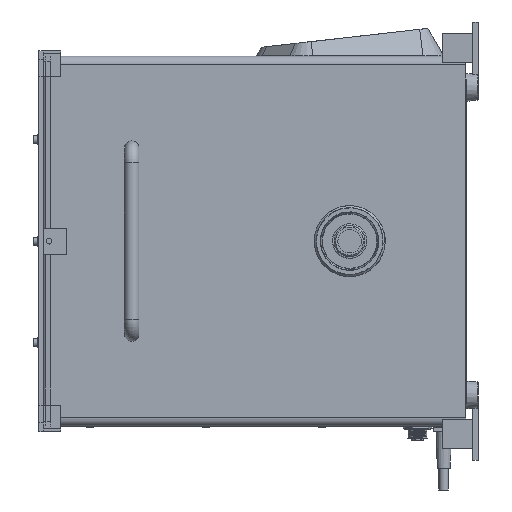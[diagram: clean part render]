
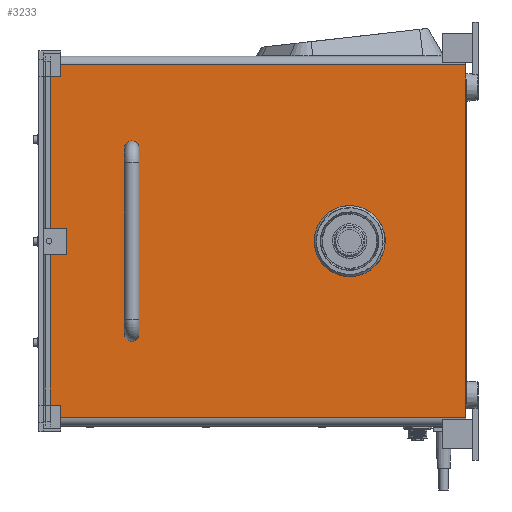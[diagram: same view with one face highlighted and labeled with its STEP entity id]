
A CAD part, left-side view. The second image highlights one B-rep face of the part: STEP entity #3233.
In plain terms, the highlighted planar face has unit normal (-1, 0, 0).
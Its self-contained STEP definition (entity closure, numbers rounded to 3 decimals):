
#736 = CYLINDRICAL_SURFACE('',#737,0.85);
#737 = AXIS2_PLACEMENT_3D('',#738,#739,#740);
#738 = CARTESIAN_POINT('',(-156.65,-289.,-111.7));
#739 = DIRECTION('',(0.,0.,-1.));
#740 = DIRECTION('',(1.,0.,0.));
#752 = VERTEX_POINT('',#753);
#753 = CARTESIAN_POINT('',(-157.5,-289.,-121.7));
#774 = PLANE('',#775);
#775 = AXIS2_PLACEMENT_3D('',#776,#777,#778);
#776 = CARTESIAN_POINT('',(-151.7,-289.,-126.7));
#777 = DIRECTION('',(0.,-1.,0.));
#778 = DIRECTION('',(0.,-0.,-1.));
#803 = CYLINDRICAL_SURFACE('',#804,5.8);
#804 = AXIS2_PLACEMENT_3D('',#805,#806,#807);
#805 = CARTESIAN_POINT('',(-151.7,-289.,-121.7));
#806 = DIRECTION('',(0.,1.,0.));
#807 = DIRECTION('',(0.,-0.,1.));
#902 = VERTEX_POINT('',#903);
#903 = CARTESIAN_POINT('',(-157.5,-289.,-111.7));
#929 = EDGE_CURVE('',#902,#752,#930,.T.);
#930 = SURFACE_CURVE('',#931,(#935,#942),.PCURVE_S1.);
#931 = LINE('',#932,#933);
#932 = CARTESIAN_POINT('',(-157.5,-289.,-127.5));
#933 = VECTOR('',#934,1.);
#934 = DIRECTION('',(0.,0.,-1.));
#935 = PCURVE('',#774,#936);
#936 = DEFINITIONAL_REPRESENTATION('',(#937),#941);
#937 = LINE('',#938,#939);
#938 = CARTESIAN_POINT('',(0.8,-5.8));
#939 = VECTOR('',#940,1.);
#940 = DIRECTION('',(1.,0.));
#941 = ( GEOMETRIC_REPRESENTATION_CONTEXT(2) 
PARAMETRIC_REPRESENTATION_CONTEXT() REPRESENTATION_CONTEXT('2D SPACE',''
  ) );
#942 = PCURVE('',#943,#948);
#943 = PLANE('',#944);
#944 = AXIS2_PLACEMENT_3D('',#945,#946,#947);
#945 = CARTESIAN_POINT('',(-157.5,-289.,-127.5));
#946 = DIRECTION('',(1.,0.,0.));
#947 = DIRECTION('',(0.,0.,-1.));
#948 = DEFINITIONAL_REPRESENTATION('',(#949),#953);
#949 = LINE('',#950,#951);
#950 = CARTESIAN_POINT('',(0.,0.));
#951 = VECTOR('',#952,1.);
#952 = DIRECTION('',(1.,0.));
#953 = ( GEOMETRIC_REPRESENTATION_CONTEXT(2) 
PARAMETRIC_REPRESENTATION_CONTEXT() REPRESENTATION_CONTEXT('2D SPACE',''
  ) );
#1024 = EDGE_CURVE('',#902,#1025,#1027,.T.);
#1025 = VERTEX_POINT('',#1026);
#1026 = CARTESIAN_POINT('',(-157.5,-289.,111.7));
#1027 = SURFACE_CURVE('',#1028,(#1032,#1039),.PCURVE_S1.);
#1028 = LINE('',#1029,#1030);
#1029 = CARTESIAN_POINT('',(-157.5,-289.,-111.7));
#1030 = VECTOR('',#1031,1.);
#1031 = DIRECTION('',(0.,-0.,1.));
#1032 = PCURVE('',#736,#1033);
#1033 = DEFINITIONAL_REPRESENTATION('',(#1034),#1038);
#1034 = LINE('',#1035,#1036);
#1035 = CARTESIAN_POINT('',(3.142,0.));
#1036 = VECTOR('',#1037,1.);
#1037 = DIRECTION('',(0.,-1.));
#1038 = ( GEOMETRIC_REPRESENTATION_CONTEXT(2) 
PARAMETRIC_REPRESENTATION_CONTEXT() REPRESENTATION_CONTEXT('2D SPACE',''
  ) );
#1039 = PCURVE('',#943,#1040);
#1040 = DEFINITIONAL_REPRESENTATION('',(#1041),#1045);
#1041 = LINE('',#1042,#1043);
#1042 = CARTESIAN_POINT('',(-15.8,0.));
#1043 = VECTOR('',#1044,1.);
#1044 = DIRECTION('',(-1.,0.));
#1045 = ( GEOMETRIC_REPRESENTATION_CONTEXT(2) 
PARAMETRIC_REPRESENTATION_CONTEXT() REPRESENTATION_CONTEXT('2D SPACE',''
  ) );
#1126 = PLANE('',#1127);
#1127 = AXIS2_PLACEMENT_3D('',#1128,#1129,#1130);
#1128 = CARTESIAN_POINT('',(-151.7,-289.,-126.7));
#1129 = DIRECTION('',(0.,-1.,0.));
#1130 = DIRECTION('',(0.,-0.,-1.));
#1167 = VERTEX_POINT('',#1168);
#1168 = CARTESIAN_POINT('',(-157.5,-289.,121.7));
#1194 = EDGE_CURVE('',#1167,#1025,#1195,.T.);
#1195 = SURFACE_CURVE('',#1196,(#1200,#1207),.PCURVE_S1.);
#1196 = LINE('',#1197,#1198);
#1197 = CARTESIAN_POINT('',(-157.5,-289.,-127.5));
#1198 = VECTOR('',#1199,1.);
#1199 = DIRECTION('',(0.,0.,-1.));
#1200 = PCURVE('',#1126,#1201);
#1201 = DEFINITIONAL_REPRESENTATION('',(#1202),#1206);
#1202 = LINE('',#1203,#1204);
#1203 = CARTESIAN_POINT('',(0.8,-5.8));
#1204 = VECTOR('',#1205,1.);
#1205 = DIRECTION('',(1.,0.));
#1206 = ( GEOMETRIC_REPRESENTATION_CONTEXT(2) 
PARAMETRIC_REPRESENTATION_CONTEXT() REPRESENTATION_CONTEXT('2D SPACE',''
  ) );
#1207 = PCURVE('',#943,#1208);
#1208 = DEFINITIONAL_REPRESENTATION('',(#1209),#1213);
#1209 = LINE('',#1210,#1211);
#1210 = CARTESIAN_POINT('',(0.,0.));
#1211 = VECTOR('',#1212,1.);
#1212 = DIRECTION('',(1.,0.));
#1213 = ( GEOMETRIC_REPRESENTATION_CONTEXT(2) 
PARAMETRIC_REPRESENTATION_CONTEXT() REPRESENTATION_CONTEXT('2D SPACE',''
  ) );
#1263 = CYLINDRICAL_SURFACE('',#1264,5.8);
#1264 = AXIS2_PLACEMENT_3D('',#1265,#1266,#1267);
#1265 = CARTESIAN_POINT('',(-151.7,-289.,121.7));
#1266 = DIRECTION('',(0.,1.,0.));
#1267 = DIRECTION('',(0.,-0.,1.));
#3195 = VERTEX_POINT('',#3196);
#3196 = CARTESIAN_POINT('',(-157.5,0.,-121.7));
#3213 = EDGE_CURVE('',#752,#3195,#3214,.T.);
#3214 = SURFACE_CURVE('',#3215,(#3219,#3226),.PCURVE_S1.);
#3215 = LINE('',#3216,#3217);
#3216 = CARTESIAN_POINT('',(-157.5,-289.,-121.7));
#3217 = VECTOR('',#3218,1.);
#3218 = DIRECTION('',(0.,1.,0.));
#3219 = PCURVE('',#803,#3220);
#3220 = DEFINITIONAL_REPRESENTATION('',(#3221),#3225);
#3221 = LINE('',#3222,#3223);
#3222 = CARTESIAN_POINT('',(4.712,0.));
#3223 = VECTOR('',#3224,1.);
#3224 = DIRECTION('',(0.,1.));
#3225 = ( GEOMETRIC_REPRESENTATION_CONTEXT(2) 
PARAMETRIC_REPRESENTATION_CONTEXT() REPRESENTATION_CONTEXT('2D SPACE',''
  ) );
#3226 = PCURVE('',#943,#3227);
#3227 = DEFINITIONAL_REPRESENTATION('',(#3228),#3232);
#3228 = LINE('',#3229,#3230);
#3229 = CARTESIAN_POINT('',(-5.8,0.));
#3230 = VECTOR('',#3231,1.);
#3231 = DIRECTION('',(0.,1.));
#3232 = ( GEOMETRIC_REPRESENTATION_CONTEXT(2) 
PARAMETRIC_REPRESENTATION_CONTEXT() REPRESENTATION_CONTEXT('2D SPACE',''
  ) );
#3233 = ADVANCED_FACE('',(#3234,#3253,#3272,#3291),#943,.F.);
#3234 = FACE_BOUND('',#3235,.T.);
#3235 = EDGE_LOOP('',(#3236));
#3236 = ORIENTED_EDGE('',*,*,#3237,.T.);
#3237 = EDGE_CURVE('',#3238,#3238,#3240,.T.);
#3238 = VERTEX_POINT('',#3239);
#3239 = CARTESIAN_POINT('',(-157.5,-209.15,-20.25));
#3240 = SURFACE_CURVE('',#3241,(#3246),.PCURVE_S1.);
#3241 = CIRCLE('',#3242,20.25);
#3242 = AXIS2_PLACEMENT_3D('',#3243,#3244,#3245);
#3243 = CARTESIAN_POINT('',(-157.5,-209.15,0.));
#3244 = DIRECTION('',(1.,0.,0.));
#3245 = DIRECTION('',(0.,-0.,-1.));
#3246 = PCURVE('',#943,#3247);
#3247 = DEFINITIONAL_REPRESENTATION('',(#3248),#3252);
#3248 = CIRCLE('',#3249,20.25);
#3249 = AXIS2_PLACEMENT_2D('',#3250,#3251);
#3250 = CARTESIAN_POINT('',(-127.5,79.85));
#3251 = DIRECTION('',(1.,-0.));
#3252 = ( GEOMETRIC_REPRESENTATION_CONTEXT(2) 
PARAMETRIC_REPRESENTATION_CONTEXT() REPRESENTATION_CONTEXT('2D SPACE',''
  ) );
#3253 = FACE_BOUND('',#3254,.T.);
#3254 = EDGE_LOOP('',(#3255));
#3255 = ORIENTED_EDGE('',*,*,#3256,.T.);
#3256 = EDGE_CURVE('',#3257,#3257,#3259,.T.);
#3257 = VERTEX_POINT('',#3258);
#3258 = CARTESIAN_POINT('',(-157.5,-59.,61.9));
#3259 = SURFACE_CURVE('',#3260,(#3265),.PCURVE_S1.);
#3260 = CIRCLE('',#3261,2.1);
#3261 = AXIS2_PLACEMENT_3D('',#3262,#3263,#3264);
#3262 = CARTESIAN_POINT('',(-157.5,-59.,64.));
#3263 = DIRECTION('',(1.,-0.,0.));
#3264 = DIRECTION('',(0.,0.,-1.));
#3265 = PCURVE('',#943,#3266);
#3266 = DEFINITIONAL_REPRESENTATION('',(#3267),#3271);
#3267 = CIRCLE('',#3268,2.1);
#3268 = AXIS2_PLACEMENT_2D('',#3269,#3270);
#3269 = CARTESIAN_POINT('',(-191.5,230.));
#3270 = DIRECTION('',(1.,0.));
#3271 = ( GEOMETRIC_REPRESENTATION_CONTEXT(2) 
PARAMETRIC_REPRESENTATION_CONTEXT() REPRESENTATION_CONTEXT('2D SPACE',''
  ) );
#3272 = FACE_BOUND('',#3273,.T.);
#3273 = EDGE_LOOP('',(#3274));
#3274 = ORIENTED_EDGE('',*,*,#3275,.T.);
#3275 = EDGE_CURVE('',#3276,#3276,#3278,.T.);
#3276 = VERTEX_POINT('',#3277);
#3277 = CARTESIAN_POINT('',(-157.5,-59.,-66.1));
#3278 = SURFACE_CURVE('',#3279,(#3284),.PCURVE_S1.);
#3279 = CIRCLE('',#3280,2.1);
#3280 = AXIS2_PLACEMENT_3D('',#3281,#3282,#3283);
#3281 = CARTESIAN_POINT('',(-157.5,-59.,-64.));
#3282 = DIRECTION('',(1.,-0.,0.));
#3283 = DIRECTION('',(0.,0.,-1.));
#3284 = PCURVE('',#943,#3285);
#3285 = DEFINITIONAL_REPRESENTATION('',(#3286),#3290);
#3286 = CIRCLE('',#3287,2.1);
#3287 = AXIS2_PLACEMENT_2D('',#3288,#3289);
#3288 = CARTESIAN_POINT('',(-63.5,230.));
#3289 = DIRECTION('',(1.,0.));
#3290 = ( GEOMETRIC_REPRESENTATION_CONTEXT(2) 
PARAMETRIC_REPRESENTATION_CONTEXT() REPRESENTATION_CONTEXT('2D SPACE',''
  ) );
#3291 = FACE_BOUND('',#3292,.T.);
#3292 = EDGE_LOOP('',(#3293,#3309,#3310,#3311,#3312,#3313));
#3293 = ORIENTED_EDGE('',*,*,#3294,.T.);
#3294 = EDGE_CURVE('',#3295,#3195,#3297,.T.);
#3295 = VERTEX_POINT('',#3296);
#3296 = CARTESIAN_POINT('',(-157.5,0.,121.7));
#3297 = SURFACE_CURVE('',#3298,(#3302),.PCURVE_S1.);
#3298 = LINE('',#3299,#3300);
#3299 = CARTESIAN_POINT('',(-157.5,0.,-127.5));
#3300 = VECTOR('',#3301,1.);
#3301 = DIRECTION('',(0.,0.,-1.));
#3302 = PCURVE('',#943,#3303);
#3303 = DEFINITIONAL_REPRESENTATION('',(#3304),#3308);
#3304 = LINE('',#3305,#3306);
#3305 = CARTESIAN_POINT('',(0.,289.));
#3306 = VECTOR('',#3307,1.);
#3307 = DIRECTION('',(1.,0.));
#3308 = ( GEOMETRIC_REPRESENTATION_CONTEXT(2) 
PARAMETRIC_REPRESENTATION_CONTEXT() REPRESENTATION_CONTEXT('2D SPACE',''
  ) );
#3309 = ORIENTED_EDGE('',*,*,#3213,.F.);
#3310 = ORIENTED_EDGE('',*,*,#929,.F.);
#3311 = ORIENTED_EDGE('',*,*,#1024,.T.);
#3312 = ORIENTED_EDGE('',*,*,#1194,.F.);
#3313 = ORIENTED_EDGE('',*,*,#3314,.T.);
#3314 = EDGE_CURVE('',#1167,#3295,#3315,.T.);
#3315 = SURFACE_CURVE('',#3316,(#3320,#3327),.PCURVE_S1.);
#3316 = LINE('',#3317,#3318);
#3317 = CARTESIAN_POINT('',(-157.5,-289.,121.7));
#3318 = VECTOR('',#3319,1.);
#3319 = DIRECTION('',(0.,1.,0.));
#3320 = PCURVE('',#943,#3321);
#3321 = DEFINITIONAL_REPRESENTATION('',(#3322),#3326);
#3322 = LINE('',#3323,#3324);
#3323 = CARTESIAN_POINT('',(-249.2,0.));
#3324 = VECTOR('',#3325,1.);
#3325 = DIRECTION('',(0.,1.));
#3326 = ( GEOMETRIC_REPRESENTATION_CONTEXT(2) 
PARAMETRIC_REPRESENTATION_CONTEXT() REPRESENTATION_CONTEXT('2D SPACE',''
  ) );
#3327 = PCURVE('',#1263,#3328);
#3328 = DEFINITIONAL_REPRESENTATION('',(#3329),#3333);
#3329 = LINE('',#3330,#3331);
#3330 = CARTESIAN_POINT('',(4.712,0.));
#3331 = VECTOR('',#3332,1.);
#3332 = DIRECTION('',(0.,1.));
#3333 = ( GEOMETRIC_REPRESENTATION_CONTEXT(2) 
PARAMETRIC_REPRESENTATION_CONTEXT() REPRESENTATION_CONTEXT('2D SPACE',''
  ) );
